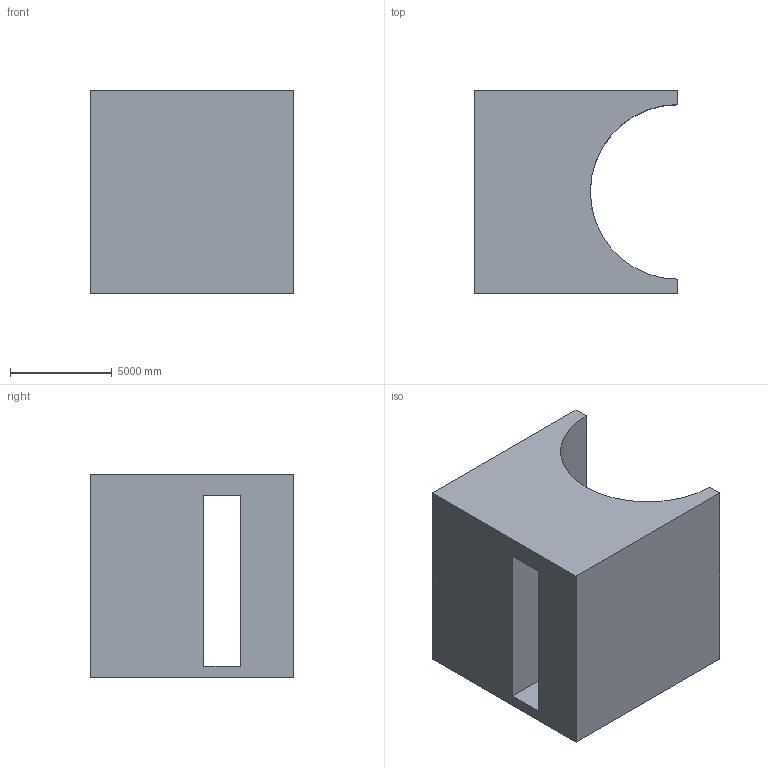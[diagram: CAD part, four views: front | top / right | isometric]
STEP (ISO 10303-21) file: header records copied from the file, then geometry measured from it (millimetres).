
FILE_DESCRIPTION (( 'STEP AP203' ), '1' );
FILE_NAME ('108.STEP', '2022-09-05T15:33:26', ( 'user' ), ( '' ), 'SwSTEP 2.0', 'SolidWorks 2021', '' );
FILE_SCHEMA (( 'CONFIG_CONTROL_DESIGN' ));
Length unit declared in the file: centimetre
Products named in the file (1): 108
Bounding box: 10000 x 10000 x 10000 mm (x, y, z)
Volume: 618336647768.6 mm3; surface area: 683514280.3 mm2
Topology: 1 solids, 1 shells, 13 faces, 33 edges, 22 vertices
Faces by surface type: plane 11, cylinder 2
Entity records: 474 total; most frequent: CARTESIAN_POINT 69, DIRECTION 67, ORIENTED_EDGE 66, EDGE_CURVE 33, LINE 27, VECTOR 27, VERTEX_POINT 22, AXIS2_PLACEMENT_3D 20
